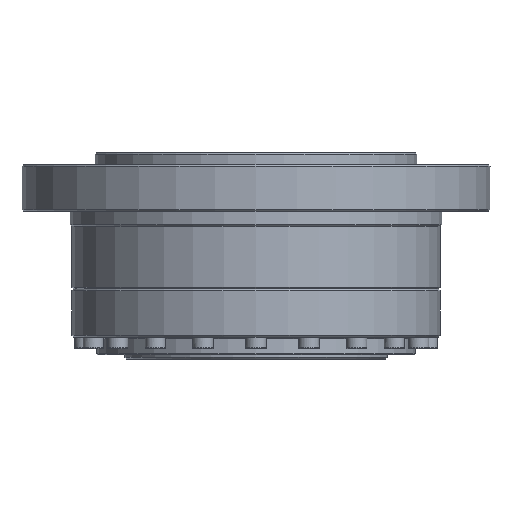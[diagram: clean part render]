
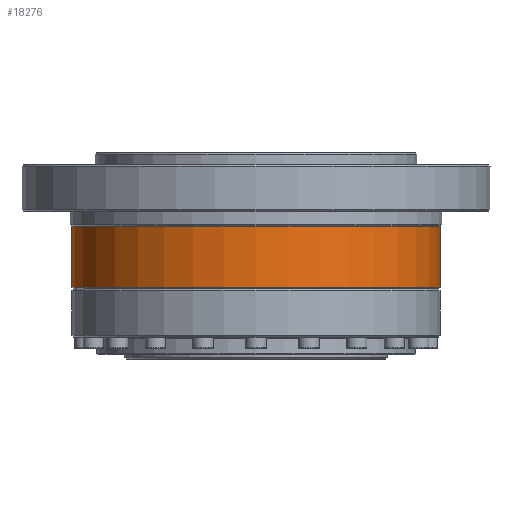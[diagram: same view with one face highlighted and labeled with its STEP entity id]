
A CAD part, front view. The second image highlights one B-rep face of the part: STEP entity #18276.
In plain terms, the highlighted cylindrical face has radius 63 mm (diameter 126 mm), a partial arc.
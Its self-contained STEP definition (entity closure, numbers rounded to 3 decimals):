
#3687 = DIRECTION ( 'NONE',  ( 0., 0., 1. ) ) ;
#4182 = DIRECTION ( 'NONE',  ( -1., 0., 0. ) ) ;
#11394 = CARTESIAN_POINT ( 'NONE',  ( 0., 0., 9.7 ) ) ;
#12514 = DIRECTION ( 'NONE',  ( 0., 0., -1. ) ) ;
#16188 = CARTESIAN_POINT ( 'NONE',  ( 63., 0., 12.5 ) ) ;
#18276 = ADVANCED_FACE ( 'NONE', ( #73676 ), #71485, .T. ) ;
#23621 = EDGE_LOOP ( 'NONE', ( #52540, #44008, #57874, #90027, #84866 ) ) ;
#24339 = AXIS2_PLACEMENT_3D ( 'NONE', #42302, #91674, #49477 ) ;
#25861 = DIRECTION ( 'NONE',  ( 0., 0., -1. ) ) ;
#26007 = EDGE_CURVE ( 'NONE', #30820, #60431, #68814, .T. ) ;
#26714 = CARTESIAN_POINT ( 'NONE',  ( 0., 0., 12.5 ) ) ;
#30269 = CIRCLE ( 'NONE', #59360, 63. ) ;
#30820 = VERTEX_POINT ( 'NONE', #61075 ) ;
#31961 = EDGE_CURVE ( 'NONE', #52233, #44945, #46591, .T. ) ;
#33892 = DIRECTION ( 'NONE',  ( -1., 0., 0. ) ) ;
#34446 = CARTESIAN_POINT ( 'NONE',  ( 63., 0., 9.7 ) ) ;
#37853 = EDGE_CURVE ( 'NONE', #57033, #44945, #30269, .T. ) ;
#42302 = CARTESIAN_POINT ( 'NONE',  ( 0., 0., 33.5 ) ) ;
#44008 = ORIENTED_EDGE ( 'NONE', *, *, #75141, .T. ) ;
#44945 = VERTEX_POINT ( 'NONE', #16188 ) ;
#46538 = CARTESIAN_POINT ( 'NONE',  ( 0., 0., 12.5 ) ) ;
#46591 = LINE ( 'NONE', #34446, #84216 ) ;
#47683 = VECTOR ( 'NONE', #12514, 1000. ) ;
#48148 = CARTESIAN_POINT ( 'NONE',  ( -63., 0., 9.7 ) ) ;
#49301 = AXIS2_PLACEMENT_3D ( 'NONE', #46538, #3687, #53689 ) ;
#49477 = DIRECTION ( 'NONE',  ( -1., 0., 0. ) ) ;
#52233 = VERTEX_POINT ( 'NONE', #82688 ) ;
#52540 = ORIENTED_EDGE ( 'NONE', *, *, #31961, .F. ) ;
#53689 = DIRECTION ( 'NONE',  ( -1., 0., 0. ) ) ;
#57033 = VERTEX_POINT ( 'NONE', #80860 ) ;
#57874 = ORIENTED_EDGE ( 'NONE', *, *, #26007, .T. ) ;
#59360 = AXIS2_PLACEMENT_3D ( 'NONE', #26714, #76401, #33892 ) ;
#60431 = VERTEX_POINT ( 'NONE', #79718 ) ;
#61075 = CARTESIAN_POINT ( 'NONE',  ( -63., 0., 33.5 ) ) ;
#61282 = CIRCLE ( 'NONE', #24339, 63. ) ;
#62640 = CIRCLE ( 'NONE', #49301, 63. ) ;
#66697 = AXIS2_PLACEMENT_3D ( 'NONE', #11394, #25861, #4182 ) ;
#68814 = LINE ( 'NONE', #48148, #47683 ) ;
#71485 = CYLINDRICAL_SURFACE ( 'NONE', #66697, 63. ) ;
#73659 = EDGE_CURVE ( 'NONE', #60431, #57033, #62640, .T. ) ;
#73676 = FACE_OUTER_BOUND ( 'NONE', #23621, .T. ) ;
#75141 = EDGE_CURVE ( 'NONE', #52233, #30820, #61282, .T. ) ;
#76401 = DIRECTION ( 'NONE',  ( 0., 0., 1. ) ) ;
#79718 = CARTESIAN_POINT ( 'NONE',  ( -63., 0., 12.5 ) ) ;
#80860 = CARTESIAN_POINT ( 'NONE',  ( 0., -63., 12.5 ) ) ;
#82688 = CARTESIAN_POINT ( 'NONE',  ( 63., 0., 33.5 ) ) ;
#84216 = VECTOR ( 'NONE', #91000, 1000. ) ;
#84866 = ORIENTED_EDGE ( 'NONE', *, *, #37853, .T. ) ;
#90027 = ORIENTED_EDGE ( 'NONE', *, *, #73659, .T. ) ;
#91000 = DIRECTION ( 'NONE',  ( 0., 0., -1. ) ) ;
#91674 = DIRECTION ( 'NONE',  ( 0., 0., -1. ) ) ;
